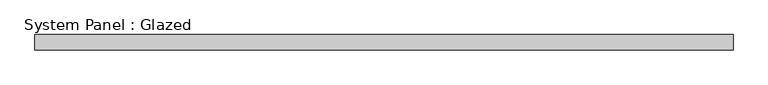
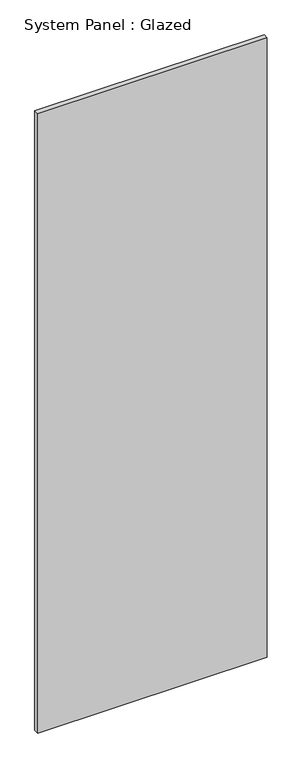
"""IFC4 building model written with IfcOpenShell, lengths in millimetres: plate geometry, System Panel : Glazed."""

from ifc_helpers import new_model, si_unit, origin, origin_with_axes, place, context, project, spatial, polyline, outline, extrude, source, transform, mapped, element, save


def system_panel_glazed_a7ec9935(model_context):
    return source(origin(), model_context, "Body", "SweptSolid", [
        extrude(outline(polyline([(571.5147841, -12.5), (-571.5147841, -12.5), (-571.5147841, 12.5), (571.5147841, 12.5), (571.5147841, -12.5)])), origin_with_axes(), (0.0, 0.0, 1.0), 3259.3032525),
    ])


if __name__ == "__main__":
    model = new_model("IFC4")
    model_context = context("Model", 3, world=origin())
    ifc_project = project(units=[si_unit("LENGTHUNIT", "METRE", prefix="MILLI")], contexts=[model_context])
    site = spatial("IfcSite", under=ifc_project)
    building = spatial("IfcBuilding", under=site)
    placement = place(None, origin())
    system_panel_glazed_shape = system_panel_glazed_a7ec9935(model_context)
    element("IfcPlate", 1, ObjectType="System Panel : Glazed", at=placement, inside=building, context=model_context, shape_type="MappedRepresentation", body=[
        mapped(system_panel_glazed_shape, transform((0.0, 0.0, 0.0), x_axis=(1.0, 0.0, 0.0), y_axis=(0.0, 1.0, 0.0), z_axis=(0.0, 0.0, 1.0))),
    ])
    save(model, "model.ifc")
